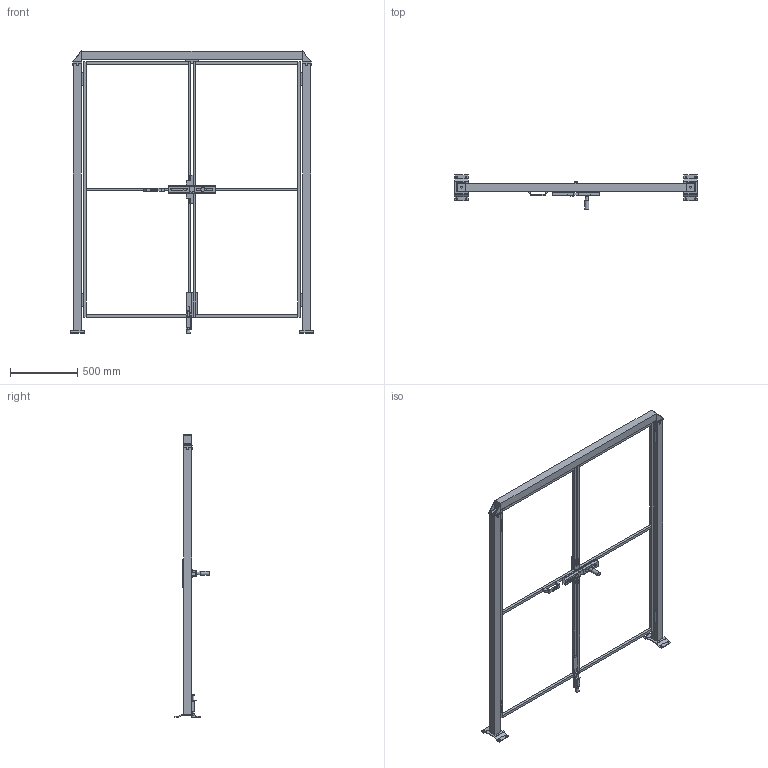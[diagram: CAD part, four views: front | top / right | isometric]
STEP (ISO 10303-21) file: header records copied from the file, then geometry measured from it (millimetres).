
FILE_DESCRIPTION(/* description */ (''),/* implementation_level */ '2;1');
FILE_NAME(/* name */ 'C:\SafeGuarding\ELABORATI\VZOR§DVOUKŘÍDLÉ_2025-02-03-10-22-47.stp',/* time_stamp */ '2025-02-03T10:22:48+01:00',/* author */ ('admin'),/* organization */ (''),/* preprocessor_version */ 'ST-DEVELOPER v18.1',/* originating_system */ 'AutoCAD Mechanical',/* authorisation */ '');
FILE_SCHEMA (('AUTOMOTIVE_DESIGN { 1 0 10303 214 3 1 1 }'));
Length unit declared in the file: millimetre
Products named in the file (5): Product; *U4; DATI_PORTA; P_VFMA.ME60SDU.2020; R_VFPA.REPE20.08001900
Assembly tree (6 placements, depth 2):
  Product
    R_VFPA.REPE20.08001900  x2
    P_VFMA.ME60SDU.2020  x2
    *U4
    DATI_PORTA
Bounding box: 1805.02 x 255.8 x 2100.5 mm (x, y, z)
Volume: 33750928.3 mm3; surface area: 3494140.2 mm2
Topology: 39 solids, 50 shells, 496 faces, 1530 edges, 1400 vertices
Faces by surface type: plane 448, cylinder 46, cone 2
Full cylindrical faces by diameter (mm): 11 x29, 12 x1, 14 x2, 24 x1, 30 x1
Entity records: 14158 total; most frequent: CARTESIAN_POINT 2885, DIRECTION 2154, ORIENTED_EDGE 2112, EDGE_CURVE 1105, LINE 1016, VECTOR 1016, VERTEX_POINT 773, AXIS2_PLACEMENT_3D 569
